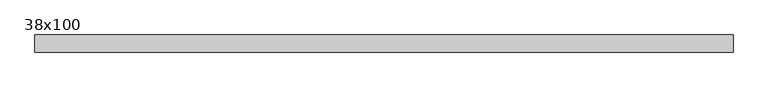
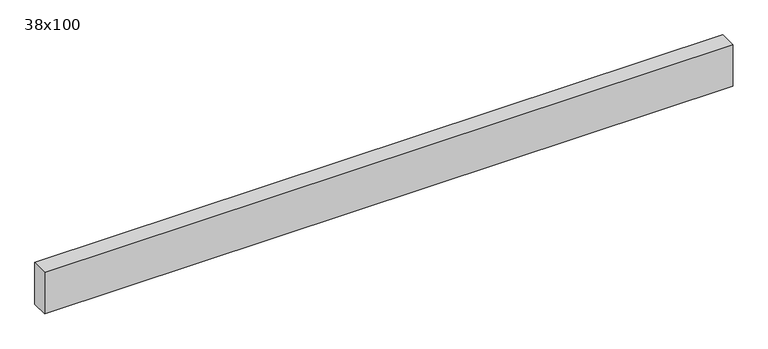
"""IFC4 building model written with IfcOpenShell, lengths in millimetres: beam geometry, Poutre - Bois de construction de dimensions courantes : 38x100."""

from ifc_helpers import new_model, si_unit, frame, origin, place, context, project, spatial, polyline, outline, extrude, source, transform, mapped, element, save


def beam_38x100_bbbdb87b(model_context):
    return source(origin(), model_context, "Body", "SweptSolid", [
        extrude(outline(polyline([(773.0, 19.05), (773.0, -19.05), (-783.0, -19.05), (-783.0, 19.05), (773.0, 19.05)])), frame((0.0, 0.0, -50.0), z_axis=(0.0, 0.0, 1.0), x_axis=(1.0, 0.0, 0.0)), (0.0, 0.0, 1.0), 100.0),
    ])


if __name__ == "__main__":
    model = new_model("IFC4")
    model_context = context("Model", 3, world=origin())
    ifc_project = project(units=[si_unit("LENGTHUNIT", "METRE", prefix="MILLI")], contexts=[model_context])
    site = spatial("IfcSite", under=ifc_project)
    building = spatial("IfcBuilding", under=site)
    placement = place(None, origin())
    beam_38x100_shape = beam_38x100_bbbdb87b(model_context)
    element("IfcBeam", 1, ObjectType="Poutre - Bois de construction de dimensions courantes : 38x100", at=placement, inside=building, context=model_context, shape_type="MappedRepresentation", body=[
        mapped(beam_38x100_shape, transform((0.0, 0.0, 0.0), x_axis=(1.0, 0.0, 0.0), y_axis=(0.0, 1.0, 0.0), z_axis=(0.0, 0.0, 1.0))),
    ])
    save(model, "model.ifc")
